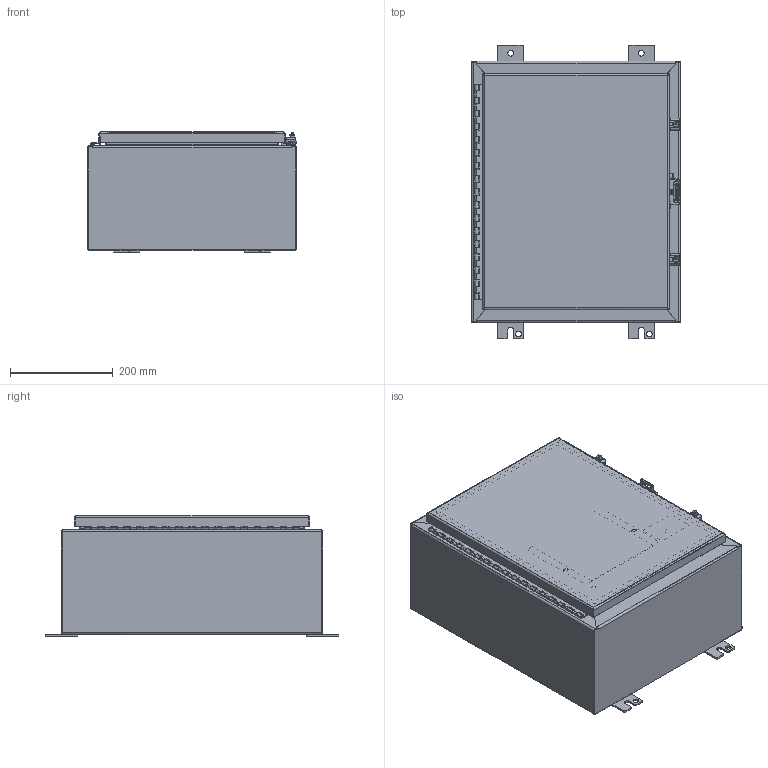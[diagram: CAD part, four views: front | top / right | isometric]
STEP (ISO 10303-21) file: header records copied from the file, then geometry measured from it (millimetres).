
FILE_DESCRIPTION((''),'2;1');
FILE_NAME('MODEL-303_ASM','2026-03-31T16:05:17',('ChadS'),('SAGINAW CONTROL & ENGINEERING'),'CREO PARAMETRIC BY PTC INC, 2021284','CREO PARAMETRIC BY PTC INC, 2021284','');
FILE_SCHEMA(('AUTOMOTIVE_DESIGN { 1 0 10303 214 1 1 1 1 }'));
Length unit declared in the file: inch
Products named in the file (30): MODEL-303-BDY; MODEL-303-TP; MODEL-303-BTM; MODEL-303-DR; 100837; 100882; 111541; 125597; 118915_DR; 118915_PIN; 118915_BX; 118915_STUD; 118915_ASM; 100897; MODEL-303-DOOR-GASKET; 128600; 102483; MODEL-303-DOOR-ASSY_ASM; 102211; 101651; 121452; 120131_BASE; 120131_CLAMP; 120131_SCREW; 120131_CLOSED_ASM; 120134; SUBPANEL; 100904; SUBPANEL-SUBASSEMBLY_ASM; MODEL-303_ASM
Assembly tree (50 placements, depth 4):
  MODEL-303_ASM
    MODEL-303-BDY
    MODEL-303-TP
    MODEL-303-BTM
    MODEL-303-DOOR-ASSY_ASM
      MODEL-303-DR
      100837  x3
      100882  x2
      111541
      125597
      118915_ASM
        118915_DR
        118915_PIN
        118915_BX
        118915_STUD  x3
      100897  x3
      MODEL-303-DOOR-GASKET
      128600
      102483
    102211  x4
    100837
    101651  x4
    121452
    120131_CLOSED_ASM  x2
      120131_BASE
      120131_CLAMP
      120131_SCREW
    100882  x3
    120134
    SUBPANEL-SUBASSEMBLY_ASM
      SUBPANEL
      100904  x4
Bounding box: 406.4 x 571.5 x 233.88 mm (x, y, z)
Volume: 2429630.2 mm3; surface area: 2280542.3 mm2
Topology: 47 solids, 47 shells, 3326 faces, 8654 edges, 5458 vertices
Faces by surface type: plane 1341, bspline 889, cylinder 733, torus 200, sphere 85, cone 78
Entity records: 89979 total; most frequent: CARTESIAN_POINT 29389, ORIENTED_EDGE 8926, DIRECTION 8037, PRESENTATION_STYLE_ASSIGNMENT 4594, STYLED_ITEM 4592, CURVE_STYLE 4463, EDGE_CURVE 4463, VERTEX_POINT 2816
